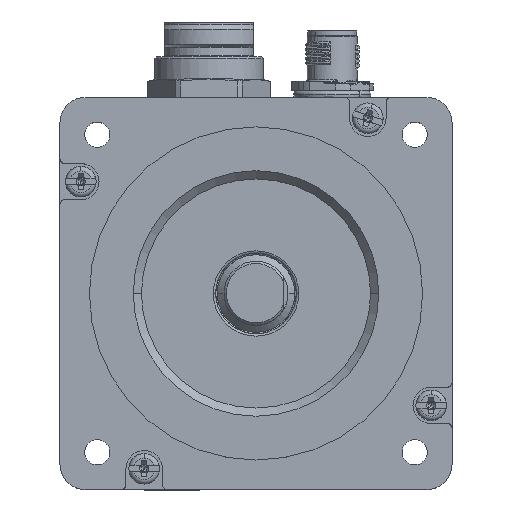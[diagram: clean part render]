
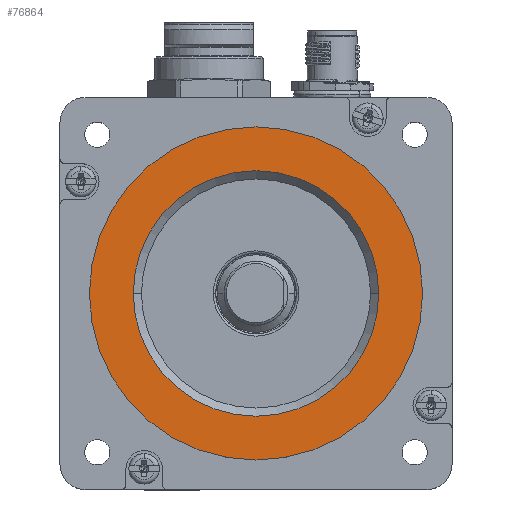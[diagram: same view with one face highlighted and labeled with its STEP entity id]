
A CAD part, top view. The second image highlights one B-rep face of the part: STEP entity #76864.
In plain terms, the highlighted planar face has unit normal (0, 0, 1).
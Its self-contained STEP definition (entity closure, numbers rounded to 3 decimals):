
#229 = CARTESIAN_POINT ( 'NONE',  ( -11.701, 1.96, 96.4 ) ) ;
#1429 = PLANE ( 'NONE',  #27845 ) ;
#7521 = EDGE_CURVE ( 'NONE', #62384, #11184, #34561, .T. ) ;
#8557 = DIRECTION ( 'NONE',  ( 1., 0., 0. ) ) ;
#8601 = ORIENTED_EDGE ( 'NONE', *, *, #11695, .T. ) ;
#8845 = CIRCLE ( 'NONE', #67352, 36.5 ) ;
#9585 = CARTESIAN_POINT ( 'NONE',  ( -11.701, 1.96, 96.4 ) ) ;
#9992 = FACE_BOUND ( 'NONE', #50317, .T. ) ;
#11184 = VERTEX_POINT ( 'NONE', #58999 ) ;
#11695 = EDGE_CURVE ( 'NONE', #11184, #62384, #8845, .T. ) ;
#12860 = ORIENTED_EDGE ( 'NONE', *, *, #28428, .T. ) ;
#15287 = DIRECTION ( 'NONE',  ( 1., 0., 0. ) ) ;
#25838 = ORIENTED_EDGE ( 'NONE', *, *, #56040, .T. ) ;
#26158 = CARTESIAN_POINT ( 'NONE',  ( -49.151, -35.49, 96.4 ) ) ;
#27845 = AXIS2_PLACEMENT_3D ( 'NONE', #26158, #98933, #75731 ) ;
#28428 = EDGE_CURVE ( 'NONE', #40940, #91968, #83165, .T. ) ;
#34211 = EDGE_LOOP ( 'NONE', ( #43803, #8601 ) ) ;
#34561 = CIRCLE ( 'NONE', #94771, 36.5 ) ;
#40940 = VERTEX_POINT ( 'NONE', #64459 ) ;
#41906 = CARTESIAN_POINT ( 'NONE',  ( -38.601, 1.96, 96.4 ) ) ;
#41928 = AXIS2_PLACEMENT_3D ( 'NONE', #46305, #79127, #96890 ) ;
#43597 = AXIS2_PLACEMENT_3D ( 'NONE', #229, #82051, #15287 ) ;
#43803 = ORIENTED_EDGE ( 'NONE', *, *, #7521, .T. ) ;
#46305 = CARTESIAN_POINT ( 'NONE',  ( -11.701, 1.96, 96.4 ) ) ;
#47580 = DIRECTION ( 'NONE',  ( 1., 0., 0. ) ) ;
#50317 = EDGE_LOOP ( 'NONE', ( #12860, #25838 ) ) ;
#51813 = CARTESIAN_POINT ( 'NONE',  ( 24.799, 1.96, 96.4 ) ) ;
#56040 = EDGE_CURVE ( 'NONE', #91968, #40940, #98624, .T. ) ;
#58999 = CARTESIAN_POINT ( 'NONE',  ( -48.201, 1.96, 96.4 ) ) ;
#62384 = VERTEX_POINT ( 'NONE', #51813 ) ;
#64459 = CARTESIAN_POINT ( 'NONE',  ( 15.199, 1.96, 96.4 ) ) ;
#65549 = FACE_OUTER_BOUND ( 'NONE', #34211, .T. ) ;
#67352 = AXIS2_PLACEMENT_3D ( 'NONE', #9585, #75306, #8557 ) ;
#75306 = DIRECTION ( 'NONE',  ( 0., 0., 1. ) ) ;
#75731 = DIRECTION ( 'NONE',  ( 1., 0., 0. ) ) ;
#76864 = ADVANCED_FACE ( 'NONE', ( #9992, #65549 ), #1429, .T. ) ;
#79127 = DIRECTION ( 'NONE',  ( 0., 0., -1. ) ) ;
#79321 = DIRECTION ( 'NONE',  ( 0., 0., 1. ) ) ;
#82051 = DIRECTION ( 'NONE',  ( 0., 0., -1. ) ) ;
#83165 = CIRCLE ( 'NONE', #41928, 26.9 ) ;
#91968 = VERTEX_POINT ( 'NONE', #41906 ) ;
#94771 = AXIS2_PLACEMENT_3D ( 'NONE', #103595, #79321, #47580 ) ;
#96890 = DIRECTION ( 'NONE',  ( 1., 0., 0. ) ) ;
#98624 = CIRCLE ( 'NONE', #43597, 26.9 ) ;
#98933 = DIRECTION ( 'NONE',  ( 0., 0., 1. ) ) ;
#103595 = CARTESIAN_POINT ( 'NONE',  ( -11.701, 1.96, 96.4 ) ) ;
